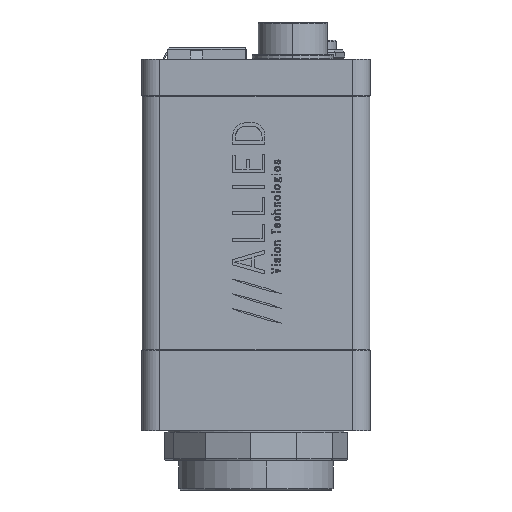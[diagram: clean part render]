
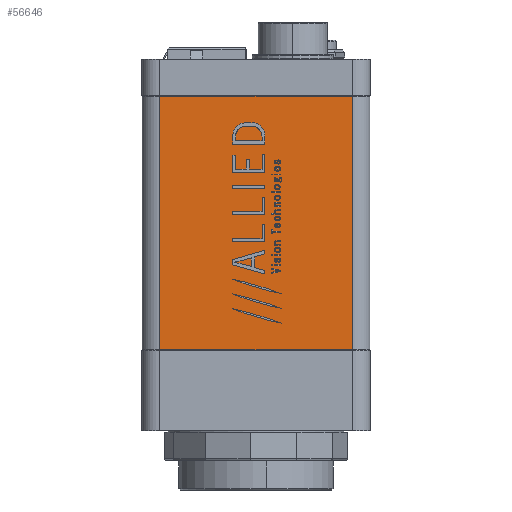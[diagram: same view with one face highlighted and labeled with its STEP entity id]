
A CAD part, left-side view. The second image highlights one B-rep face of the part: STEP entity #56646.
In plain terms, the highlighted planar face has unit normal (-1, 0, 0).
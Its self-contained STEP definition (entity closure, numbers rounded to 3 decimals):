
#4866 = VERTEX_POINT ( 'NONE', #116351 ) ;
#24638 = VECTOR ( 'NONE', #61626, 1000. ) ;
#27659 = CARTESIAN_POINT ( 'NONE',  ( -25.714, -16.558, 43.65 ) ) ;
#35174 = LINE ( 'NONE', #67725, #197994 ) ;
#44434 = VERTEX_POINT ( 'NONE', #142269 ) ;
#45258 = CARTESIAN_POINT ( 'NONE',  ( -25.714, 16.558, 43.65 ) ) ;
#48093 = DIRECTION ( 'NONE',  ( 0., 0., 1. ) ) ;
#48124 = DIRECTION ( 'NONE',  ( -1., 0., 0. ) ) ;
#48299 = CARTESIAN_POINT ( 'NONE',  ( -25.714, 16.558, 108.336 ) ) ;
#55855 = AXIS2_PLACEMENT_3D ( 'NONE', #48299, #48124, #48093 ) ;
#56086 = PLANE ( 'NONE',  #55855 ) ;
#56646 = ADVANCED_FACE ( 'NONE', ( #155443 ), #56086, .T. ) ;
#59257 = VECTOR ( 'NONE', #140375, 1000. ) ;
#61321 = EDGE_CURVE ( 'NONE', #145910, #4866, #147362, .T. ) ;
#61626 = DIRECTION ( 'NONE',  ( 0., 1., 0. ) ) ;
#61663 = CARTESIAN_POINT ( 'NONE',  ( -25.714, -16.558, 0. ) ) ;
#62122 = CARTESIAN_POINT ( 'NONE',  ( -25.714, -16.558, 108.336 ) ) ;
#62900 = ORIENTED_EDGE ( 'NONE', *, *, #155341, .F. ) ;
#64361 = LINE ( 'NONE', #45258, #59257 ) ;
#67725 = CARTESIAN_POINT ( 'NONE',  ( -25.714, 16.558, 108.336 ) ) ;
#67869 = DIRECTION ( 'NONE',  ( 0., 0., 1. ) ) ;
#72265 = LINE ( 'NONE', #62122, #151935 ) ;
#75970 = EDGE_LOOP ( 'NONE', ( #151194, #104296, #101346, #62900 ) ) ;
#91696 = EDGE_CURVE ( 'NONE', #4866, #44434, #35174, .T. ) ;
#94526 = DIRECTION ( 'NONE',  ( 0., 0., 1. ) ) ;
#96855 = CARTESIAN_POINT ( 'NONE',  ( -25.714, -16.558, 0. ) ) ;
#101346 = ORIENTED_EDGE ( 'NONE', *, *, #167533, .T. ) ;
#104296 = ORIENTED_EDGE ( 'NONE', *, *, #61321, .F. ) ;
#116351 = CARTESIAN_POINT ( 'NONE',  ( -25.714, 16.558, 0. ) ) ;
#134952 = VERTEX_POINT ( 'NONE', #27659 ) ;
#140375 = DIRECTION ( 'NONE',  ( 0., -1., 0. ) ) ;
#142269 = CARTESIAN_POINT ( 'NONE',  ( -25.714, 16.558, 43.65 ) ) ;
#145910 = VERTEX_POINT ( 'NONE', #96855 ) ;
#147362 = LINE ( 'NONE', #61663, #24638 ) ;
#151194 = ORIENTED_EDGE ( 'NONE', *, *, #91696, .F. ) ;
#151935 = VECTOR ( 'NONE', #94526, 1000. ) ;
#155341 = EDGE_CURVE ( 'NONE', #44434, #134952, #64361, .T. ) ;
#155443 = FACE_OUTER_BOUND ( 'NONE', #75970, .T. ) ;
#167533 = EDGE_CURVE ( 'NONE', #145910, #134952, #72265, .T. ) ;
#197994 = VECTOR ( 'NONE', #67869, 1000. ) ;
